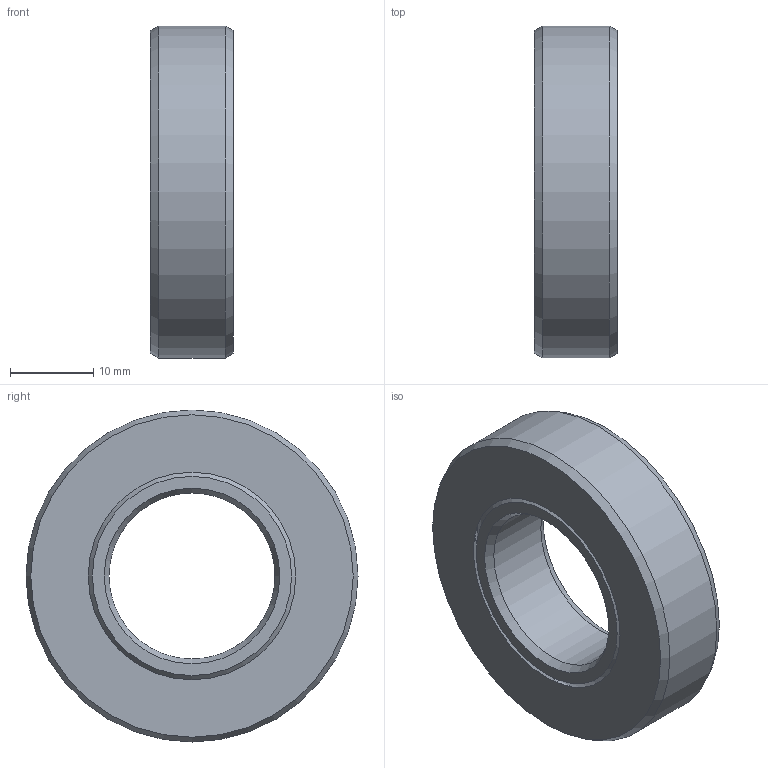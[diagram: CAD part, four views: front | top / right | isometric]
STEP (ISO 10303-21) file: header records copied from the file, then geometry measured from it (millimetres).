
FILE_DESCRIPTION(/* description */ (''),/* implementation_level */ '2;1');
FILE_NAME(/* name */ '301777 SA 20x40x10.stp',/* time_stamp */ '2016-12-16T15:45:47+01:00',/* author */ (''),/* organization */ (''),/* preprocessor_version */ 'ST-DEVELOPER v15',/* originating_system */ 'SIEMENS PLM Software NX 8.5',/* authorisation */ '');
FILE_SCHEMA (('CONFIG_CONTROL_DESIGN'));
Length unit declared in the file: millimetre
Products named in the file (1): ATE0000144_01
Bounding box: 10 x 40 x 40 mm (x, y, z)
Volume: 8777.3 mm3; surface area: 5793.3 mm2
Topology: 2 solids, 2 shells, 18 faces, 37 edges, 23 vertices
Faces by surface type: cone 10, plane 5, cylinder 3
Full cylindrical faces by diameter (mm): 20 x1, 40 x1
Entity records: 492 total; most frequent: DIRECTION 76, CARTESIAN_POINT 74, ORIENTED_EDGE 46, AXIS2_PLACEMENT_3D 38, EDGE_LOOP 33, FACE_BOUND 30, EDGE_CURVE 23, VERTEX_POINT 20
